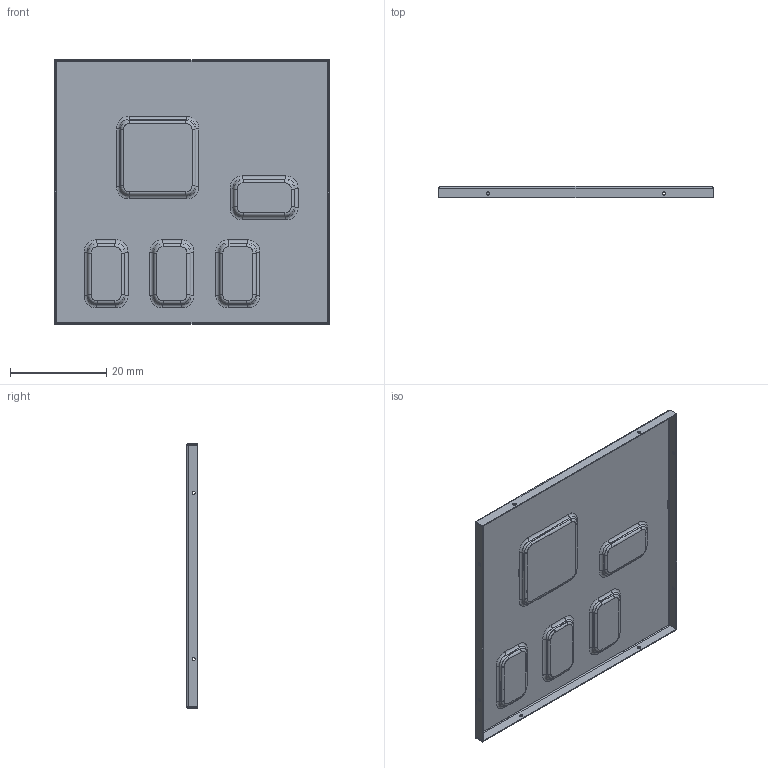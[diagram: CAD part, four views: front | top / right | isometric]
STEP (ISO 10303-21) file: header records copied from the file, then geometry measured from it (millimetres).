
FILE_DESCRIPTION((''),'2;1');
FILE_NAME('SHIELDING_COVER_SOC','2020-08-11T',('G6003023'),(''),'PRO/ENGINEER BY PARAMETRIC TECHNOLOGY CORPORATION, 2013150','PRO/ENGINEER BY PARAMETRIC TECHNOLOGY CORPORATION, 2013150','');
FILE_SCHEMA(('CONFIG_CONTROL_DESIGN'));
Length unit declared in the file: millimetre
Products named in the file (1): SHIELDING_COVER_SOC
Bounding box: 57.21 x 2.3 x 55.14 mm (x, y, z)
Volume: 735.2 mm3; surface area: 7404 mm2
Topology: 1 solids, 1 shells, 308 faces, 696 edges, 400 vertices
Faces by surface type: cylinder 144, bspline 84, plane 80
Entity records: 13210 total; most frequent: CARTESIAN_POINT 6840, ORIENTED_EDGE 1392, DIRECTION 1184, EDGE_CURVE 696, AXIS2_PLACEMENT_3D 432, VERTEX_POINT 400, EDGE_LOOP 334, VECTOR 320
